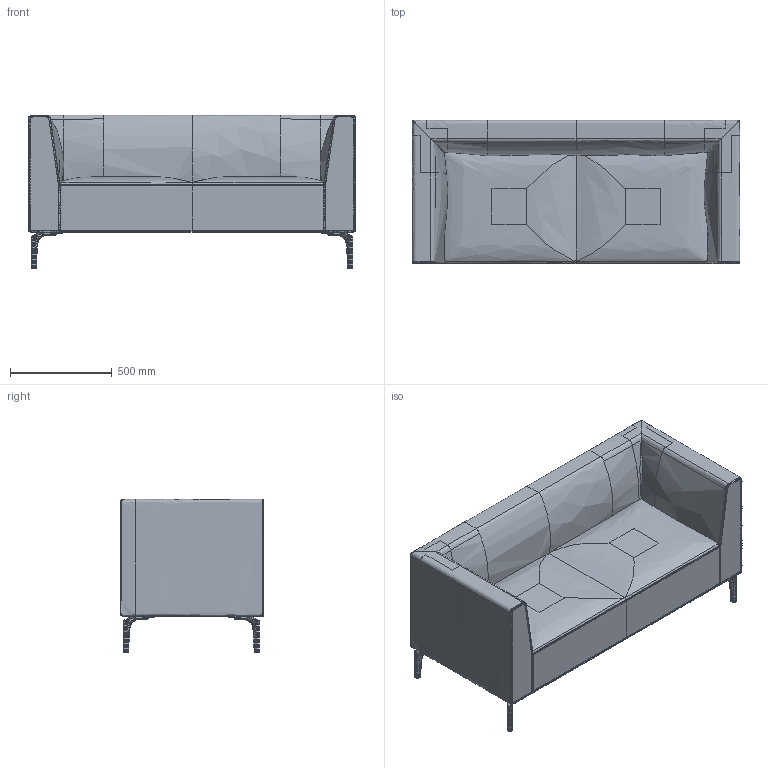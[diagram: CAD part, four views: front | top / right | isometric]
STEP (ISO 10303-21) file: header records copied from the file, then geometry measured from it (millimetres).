
FILE_DESCRIPTION(/* description */ (''),/* implementation_level */ '2;1');
FILE_NAME(/* name */ 'kinoshita_abord_f015-2',/* time_stamp */ '2025-09-16T11:06:26+09:00',/* author */ (''),/* organization */ (''),/* preprocessor_version */ 'ST-DEVELOPER v16.5',/* originating_system */ '',/* authorisation */ '');
FILE_SCHEMA (('AUTOMOTIVE_DESIGN'));
Products named in the file (1): Document
Bounding box: 1607 x 703.52 x 753.48 mm (x, y, z)
Volume: 256976.4 mm3; surface area: 5352622.1 mm2
Topology: 9 solids, 22 shells, 1702 faces, 3877 edges, 2195 vertices
Faces by surface type: bspline 1554, plane 148
Entity records: 234648 total; most frequent: CARTESIAN_POINT 210562, ORIENTED_EDGE 7641, EDGE_CURVE 3850, B_SPLINE_CURVE_WITH_KNOTS 3383, VERTEX_POINT 2195, EDGE_LOOP 1740, ADVANCED_FACE 1684, FACE_OUTER_BOUND 1684
